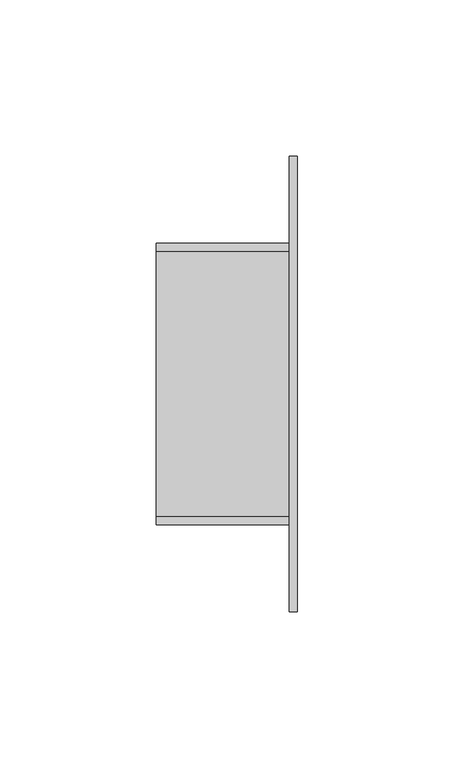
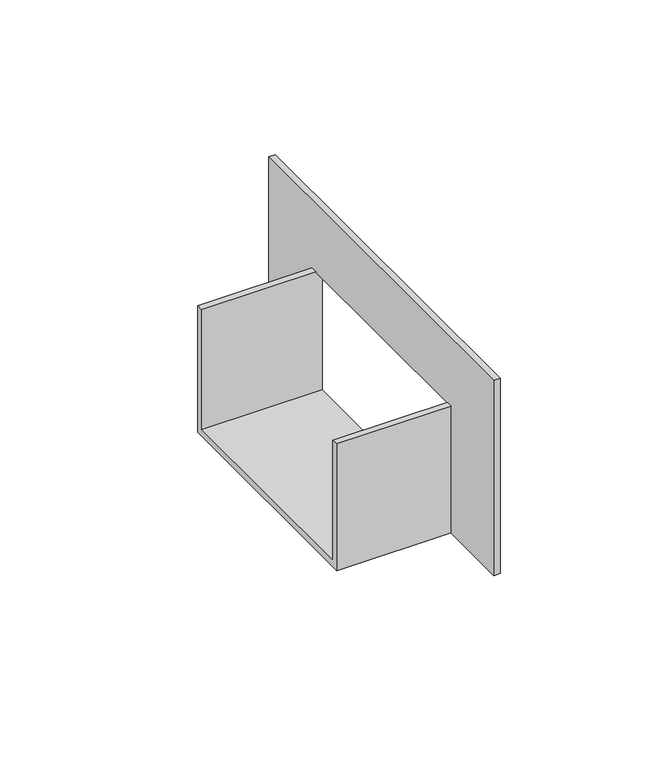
"""IFC4 building model written with IfcOpenShell, lengths in millimetres: cable carrier fitting geometry, КНС_ВводВСтену_ILF_DKC : Белый."""

from ifc_helpers import new_model, si_unit, frame, origin, place, context, project, spatial, polyline, outline, extrude, source, transform, mapped, element, save


def cable_carrier_fitting_9fc0aa68(model_context):
    return source(origin(), model_context, "Body", "SweptSolid", [
        extrude(outline(polyline([(45.0, -25.0), (-45.0, -25.0), (-45.0, 25.0), (-42.5, 25.0), (-42.5, -22.5), (42.5, -22.5), (42.5, 25.0), (45.0, 25.0), (45.0, -25.0)])), frame((-45.0, 0.0, 0.0), z_axis=(1.0, 0.0, 0.0), x_axis=(0.0, 1.0, 0.0)), (0.0, 0.0, 1.0), 45.0),
        extrude(outline(polyline([(45.0, -25.0), (45.0, 25.0), (-45.0, 25.0), (-45.0, -25.0), (-72.75, -25.0), (-72.75, 52.0), (72.75, 52.0), (72.75, -25.0), (45.0, -25.0)])), frame((-2.5, 0.0, 0.0), z_axis=(1.0, 0.0, 0.0), x_axis=(0.0, 1.0, 0.0)), (0.0, 0.0, 1.0), 2.5),
    ])


if __name__ == "__main__":
    model = new_model("IFC4")
    model_context = context("Model", 3, world=origin())
    ifc_project = project(units=[si_unit("LENGTHUNIT", "METRE", prefix="MILLI")], contexts=[model_context])
    site = spatial("IfcSite", under=ifc_project)
    building = spatial("IfcBuilding", under=site)
    placement = place(None, origin())
    cable_carrier_fitting_shape = cable_carrier_fitting_9fc0aa68(model_context)
    element("IfcCableCarrierFitting", 1, ObjectType="КНС_ВводВСтену_ILF_DKC : Белый", at=placement, inside=building, context=model_context, shape_type="MappedRepresentation", body=[
        mapped(cable_carrier_fitting_shape, transform((0.0, 0.0, 0.0), x_axis=(1.0, 0.0, 0.0), y_axis=(0.0, 1.0, 0.0), z_axis=(0.0, 0.0, 1.0))),
    ])
    save(model, "model.ifc")
